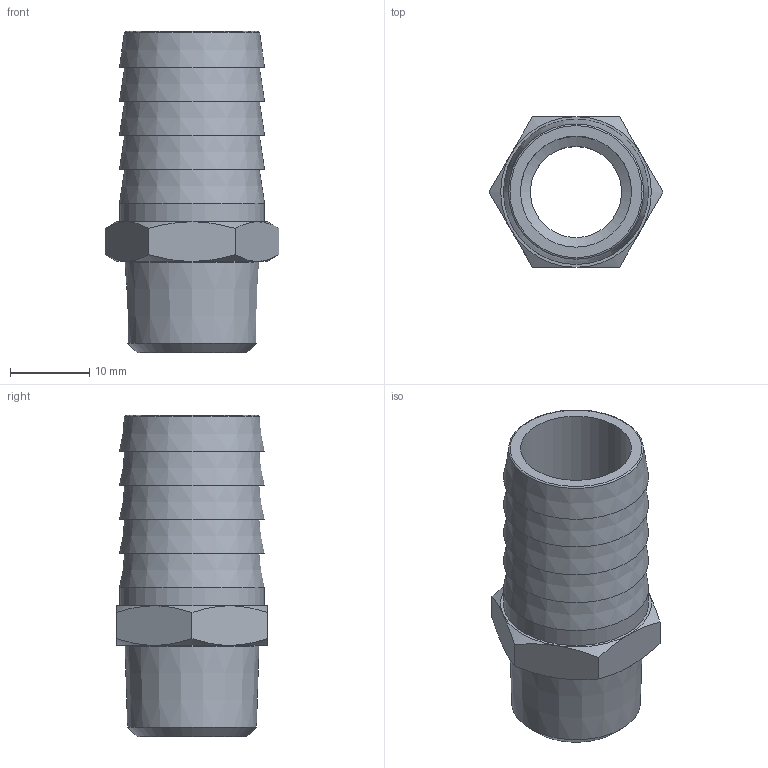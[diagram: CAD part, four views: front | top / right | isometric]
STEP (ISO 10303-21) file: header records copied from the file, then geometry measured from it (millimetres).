
FILE_DESCRIPTION(/* description */ (''),/* implementation_level */ '2;1');
FILE_NAME(/* name */ '30428_119_18_R38_22.11.16',/* time_stamp */ '2016-11-22T12:11:35+01:00',/* author */ (''),/* organization */ (''),/* preprocessor_version */ 'ST-DEVELOPER v16.5',/* originating_system */ 'HiCAD 2016 2102.0 Build 402',/* authorisation */ '');
FILE_SCHEMA (('AUTOMOTIVE_DESIGN { 1 0 10303 214 1 1 1 1 }'));
Length unit declared in the file: millimetre
Products named in the file (2): Root; 30428
Assembly tree (1 placements, depth 2):
  Root
    30428
Bounding box: 21.94 x 19 x 40.5 mm (x, y, z)
Volume: 4376.2 mm3; surface area: 4363.7 mm2
Topology: 1 solids, 1 shells, 39 faces, 77 edges, 47 vertices
Faces by surface type: cone 20, plane 14, cylinder 4, torus 1
Full cylindrical faces by diameter (mm): 11.5 x1, 14 x1, 16.893 x1, 18.3 x1
Entity records: 1598 total; most frequent: DIRECTION 200, CARTESIAN_POINT 148, PRESENTATION_STYLE_ASSIGNMENT 125, COLOUR_RGB 125, DRAUGHTING_PRE_DEFINED_CURVE_FONT 124, CURVE_STYLE 124, OVER_RIDING_STYLED_ITEM 124, ORIENTED_EDGE 124
